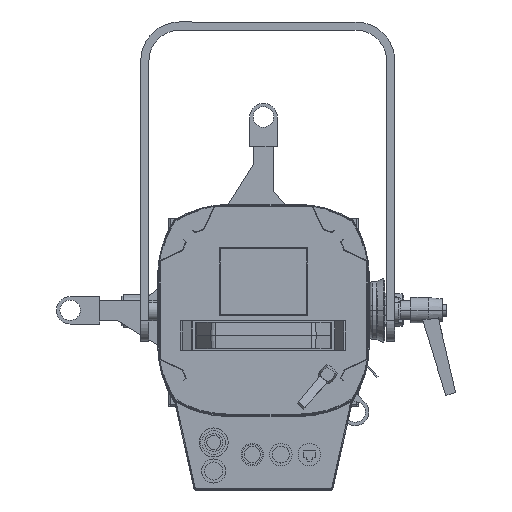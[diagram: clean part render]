
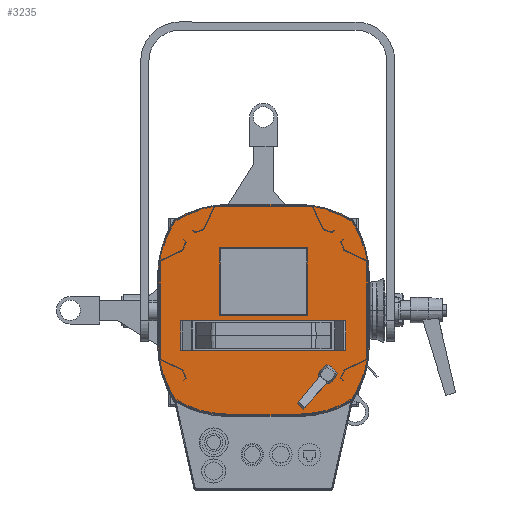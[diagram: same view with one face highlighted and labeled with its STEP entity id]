
A CAD part, top view. The second image highlights one B-rep face of the part: STEP entity #3235.
In plain terms, the highlighted planar face has unit normal (0, 0, 1).
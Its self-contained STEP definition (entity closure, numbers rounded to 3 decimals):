
#42 = CARTESIAN_POINT ( 'NONE',  ( -42.5, 60., 227.1 ) ) ;
#118 = ORIENTED_EDGE ( 'NONE', *, *, #8943, .F. ) ;
#231 = VERTEX_POINT ( 'NONE', #10096 ) ;
#337 = EDGE_CURVE ( 'NONE', #4456, #9332, #11197, .T. ) ;
#720 = VERTEX_POINT ( 'NONE', #11473 ) ;
#1090 = AXIS2_PLACEMENT_3D ( 'NONE', #14621, #28991, #16799 ) ;
#1207 = ORIENTED_EDGE ( 'NONE', *, *, #4908, .F. ) ;
#1422 = CARTESIAN_POINT ( 'NONE',  ( 33., 0., 227.1 ) ) ;
#1524 = VERTEX_POINT ( 'NONE', #27880 ) ;
#1911 = DIRECTION ( 'NONE',  ( 1., 0., 0. ) ) ;
#2131 = ORIENTED_EDGE ( 'NONE', *, *, #30221, .F. ) ;
#2450 = EDGE_CURVE ( 'NONE', #14532, #231, #20240, .T. ) ;
#2831 = VERTEX_POINT ( 'NONE', #13691 ) ;
#2868 = CIRCLE ( 'NONE', #8263, 103.8 ) ;
#3049 = CIRCLE ( 'NONE', #1090, 103.8 ) ;
#3235 = ADVANCED_FACE ( 'NONE', ( #20208, #8748 ), #10765, .F. ) ;
#3365 = VERTEX_POINT ( 'NONE', #9660 ) ;
#3878 = VECTOR ( 'NONE', #6921, 1000. ) ;
#4456 = VERTEX_POINT ( 'NONE', #29762 ) ;
#4908 = EDGE_CURVE ( 'NONE', #5964, #4456, #12089, .T. ) ;
#5127 = DIRECTION ( 'NONE',  ( 0., 0., -1. ) ) ;
#5440 = AXIS2_PLACEMENT_3D ( 'NONE', #25188, #21007, #25491 ) ;
#5577 = AXIS2_PLACEMENT_3D ( 'NONE', #21537, #15303, #8204 ) ;
#5879 = VECTOR ( 'NONE', #21060, 1000. ) ;
#5964 = VERTEX_POINT ( 'NONE', #11014 ) ;
#6199 = CARTESIAN_POINT ( 'NONE',  ( -103.8, -33., 227.1 ) ) ;
#6347 = CARTESIAN_POINT ( 'NONE',  ( 0., -33., 227.1 ) ) ;
#6813 = VERTEX_POINT ( 'NONE', #20680 ) ;
#6921 = DIRECTION ( 'NONE',  ( -1., 0., 0. ) ) ;
#6940 = DIRECTION ( 'NONE',  ( 0., -1., 0. ) ) ;
#7330 = CARTESIAN_POINT ( 'NONE',  ( -42.5, -4., 227.1 ) ) ;
#7442 = EDGE_LOOP ( 'NONE', ( #17923, #29066, #1207, #19954 ) ) ;
#7691 = CARTESIAN_POINT ( 'NONE',  ( -42.5, 14., 227.1 ) ) ;
#7816 = CARTESIAN_POINT ( 'NONE',  ( 0., -33., 227.1 ) ) ;
#8068 = CARTESIAN_POINT ( 'NONE',  ( 88.019, 88.019, 227.1 ) ) ;
#8204 = DIRECTION ( 'NONE',  ( 1., 0., 0. ) ) ;
#8263 = AXIS2_PLACEMENT_3D ( 'NONE', #1422, #20095, #22712 ) ;
#8465 = DIRECTION ( 'NONE',  ( -1., 0., 0. ) ) ;
#8599 = DIRECTION ( 'NONE',  ( 0., 0., -1. ) ) ;
#8635 = DIRECTION ( 'NONE',  ( 0., 1., 0. ) ) ;
#8748 = FACE_OUTER_BOUND ( 'NONE', #11134, .T. ) ;
#8943 = EDGE_CURVE ( 'NONE', #29263, #1524, #9470, .T. ) ;
#9195 = CARTESIAN_POINT ( 'NONE',  ( 33., -103.8, 227.1 ) ) ;
#9294 = CARTESIAN_POINT ( 'NONE',  ( 0., 33., 227.1 ) ) ;
#9332 = VERTEX_POINT ( 'NONE', #42 ) ;
#9361 = ORIENTED_EDGE ( 'NONE', *, *, #2450, .F. ) ;
#9470 = CIRCLE ( 'NONE', #5577, 103.8 ) ;
#9602 = VERTEX_POINT ( 'NONE', #10773 ) ;
#9641 = ORIENTED_EDGE ( 'NONE', *, *, #25084, .F. ) ;
#9660 = CARTESIAN_POINT ( 'NONE',  ( -33., -103.8, 227.1 ) ) ;
#9820 = VECTOR ( 'NONE', #23106, 1000. ) ;
#10074 = DIRECTION ( 'NONE',  ( 0., 0., -1. ) ) ;
#10096 = CARTESIAN_POINT ( 'NONE',  ( -88.019, 88.019, 227.1 ) ) ;
#10631 = ORIENTED_EDGE ( 'NONE', *, *, #16219, .F. ) ;
#10765 = PLANE ( 'NONE',  #16314 ) ;
#10773 = CARTESIAN_POINT ( 'NONE',  ( -42.5, -4., 227.1 ) ) ;
#11014 = CARTESIAN_POINT ( 'NONE',  ( 42.5, -4., 227.1 ) ) ;
#11134 = EDGE_LOOP ( 'NONE', ( #16592, #15267, #16578, #2131, #24368, #9641, #9361, #25249, #24961, #21065, #10631, #118 ) ) ;
#11197 = LINE ( 'NONE', #13230, #9820 ) ;
#11473 = CARTESIAN_POINT ( 'NONE',  ( 103.8, 33., 227.1 ) ) ;
#11601 = AXIS2_PLACEMENT_3D ( 'NONE', #12034, #5127, #12349 ) ;
#11642 = EDGE_CURVE ( 'NONE', #21431, #6813, #13165, .T. ) ;
#11810 = CARTESIAN_POINT ( 'NONE',  ( -33., 103.8, 227.1 ) ) ;
#12034 = CARTESIAN_POINT ( 'NONE',  ( -33., 0., 227.1 ) ) ;
#12089 = LINE ( 'NONE', #16428, #5879 ) ;
#12145 = VECTOR ( 'NONE', #21529, 1000. ) ;
#12349 = DIRECTION ( 'NONE',  ( -1., 0., 0. ) ) ;
#13081 = VERTEX_POINT ( 'NONE', #8068 ) ;
#13087 = VECTOR ( 'NONE', #1911, 1000. ) ;
#13165 = LINE ( 'NONE', #22457, #13087 ) ;
#13230 = CARTESIAN_POINT ( 'NONE',  ( 2.5, 60., 227.1 ) ) ;
#13611 = DIRECTION ( 'NONE',  ( 1., 0., 0. ) ) ;
#13691 = CARTESIAN_POINT ( 'NONE',  ( -103.8, -33., 227.1 ) ) ;
#14001 = AXIS2_PLACEMENT_3D ( 'NONE', #9294, #30165, #13611 ) ;
#14035 = VECTOR ( 'NONE', #6940, 1000. ) ;
#14477 = CARTESIAN_POINT ( 'NONE',  ( -88.019, -88.019, 227.1 ) ) ;
#14532 = VERTEX_POINT ( 'NONE', #20239 ) ;
#14621 = CARTESIAN_POINT ( 'NONE',  ( -33., 0., 227.1 ) ) ;
#15267 = ORIENTED_EDGE ( 'NONE', *, *, #26230, .F. ) ;
#15303 = DIRECTION ( 'NONE',  ( 0., 0., -1. ) ) ;
#15670 = EDGE_CURVE ( 'NONE', #27408, #2831, #23471, .T. ) ;
#15697 = CARTESIAN_POINT ( 'NONE',  ( 0., -33., 227.1 ) ) ;
#15734 = DIRECTION ( 'NONE',  ( 1., 0., 0. ) ) ;
#15798 = EDGE_CURVE ( 'NONE', #2831, #14532, #17206, .T. ) ;
#16055 = CIRCLE ( 'NONE', #11601, 103.8 ) ;
#16219 = EDGE_CURVE ( 'NONE', #1524, #3365, #30217, .T. ) ;
#16314 = AXIS2_PLACEMENT_3D ( 'NONE', #15697, #8599, #8465 ) ;
#16428 = CARTESIAN_POINT ( 'NONE',  ( 42.5, 60., 227.1 ) ) ;
#16578 = ORIENTED_EDGE ( 'NONE', *, *, #17933, .F. ) ;
#16592 = ORIENTED_EDGE ( 'NONE', *, *, #23974, .F. ) ;
#16799 = DIRECTION ( 'NONE',  ( 1., 0., 0. ) ) ;
#17113 = DIRECTION ( 'NONE',  ( 0., -1., 0. ) ) ;
#17206 = LINE ( 'NONE', #6199, #23979 ) ;
#17538 = CARTESIAN_POINT ( 'NONE',  ( 103.8, -33., 227.1 ) ) ;
#17923 = ORIENTED_EDGE ( 'NONE', *, *, #22404, .F. ) ;
#17933 = EDGE_CURVE ( 'NONE', #13081, #720, #21924, .T. ) ;
#18881 = VERTEX_POINT ( 'NONE', #17538 ) ;
#19715 = DIRECTION ( 'NONE',  ( -1., 0., 0. ) ) ;
#19954 = ORIENTED_EDGE ( 'NONE', *, *, #29592, .F. ) ;
#20095 = DIRECTION ( 'NONE',  ( 0., 0., -1. ) ) ;
#20208 = FACE_BOUND ( 'NONE', #7442, .T. ) ;
#20239 = CARTESIAN_POINT ( 'NONE',  ( -103.8, 33., 227.1 ) ) ;
#20240 = CIRCLE ( 'NONE', #5440, 103.8 ) ;
#20680 = CARTESIAN_POINT ( 'NONE',  ( 33., 103.8, 227.1 ) ) ;
#21007 = DIRECTION ( 'NONE',  ( 0., 0., -1. ) ) ;
#21060 = DIRECTION ( 'NONE',  ( 0., 1., 0. ) ) ;
#21063 = LINE ( 'NONE', #7330, #12145 ) ;
#21065 = ORIENTED_EDGE ( 'NONE', *, *, #28664, .F. ) ;
#21422 = LINE ( 'NONE', #25606, #14035 ) ;
#21431 = VERTEX_POINT ( 'NONE', #11810 ) ;
#21529 = DIRECTION ( 'NONE',  ( 1., 0., 0. ) ) ;
#21537 = CARTESIAN_POINT ( 'NONE',  ( 33., 0., 227.1 ) ) ;
#21778 = CIRCLE ( 'NONE', #24245, 103.8 ) ;
#21924 = CIRCLE ( 'NONE', #14001, 103.8 ) ;
#22404 = EDGE_CURVE ( 'NONE', #9332, #9602, #28859, .T. ) ;
#22457 = CARTESIAN_POINT ( 'NONE',  ( 33., 103.8, 227.1 ) ) ;
#22712 = DIRECTION ( 'NONE',  ( -1., 0., 0. ) ) ;
#23106 = DIRECTION ( 'NONE',  ( -1., 0., 0. ) ) ;
#23471 = CIRCLE ( 'NONE', #25464, 103.8 ) ;
#23974 = EDGE_CURVE ( 'NONE', #18881, #29263, #21778, .T. ) ;
#23979 = VECTOR ( 'NONE', #8635, 1000. ) ;
#24245 = AXIS2_PLACEMENT_3D ( 'NONE', #7816, #26512, #19715 ) ;
#24368 = ORIENTED_EDGE ( 'NONE', *, *, #11642, .F. ) ;
#24961 = ORIENTED_EDGE ( 'NONE', *, *, #15670, .F. ) ;
#25084 = EDGE_CURVE ( 'NONE', #231, #21431, #3049, .T. ) ;
#25188 = CARTESIAN_POINT ( 'NONE',  ( 0., 33., 227.1 ) ) ;
#25249 = ORIENTED_EDGE ( 'NONE', *, *, #15798, .F. ) ;
#25464 = AXIS2_PLACEMENT_3D ( 'NONE', #6347, #10074, #15734 ) ;
#25491 = DIRECTION ( 'NONE',  ( -1., 0., 0. ) ) ;
#25606 = CARTESIAN_POINT ( 'NONE',  ( 103.8, -33., 227.1 ) ) ;
#26230 = EDGE_CURVE ( 'NONE', #720, #18881, #21422, .T. ) ;
#26512 = DIRECTION ( 'NONE',  ( 0., 0., -1. ) ) ;
#27408 = VERTEX_POINT ( 'NONE', #14477 ) ;
#27597 = VECTOR ( 'NONE', #17113, 1000. ) ;
#27880 = CARTESIAN_POINT ( 'NONE',  ( 33., -103.8, 227.1 ) ) ;
#28372 = CARTESIAN_POINT ( 'NONE',  ( 88.019, -88.019, 227.1 ) ) ;
#28664 = EDGE_CURVE ( 'NONE', #3365, #27408, #16055, .T. ) ;
#28859 = LINE ( 'NONE', #7691, #27597 ) ;
#28991 = DIRECTION ( 'NONE',  ( 0., 0., -1. ) ) ;
#29066 = ORIENTED_EDGE ( 'NONE', *, *, #337, .F. ) ;
#29263 = VERTEX_POINT ( 'NONE', #28372 ) ;
#29592 = EDGE_CURVE ( 'NONE', #9602, #5964, #21063, .T. ) ;
#29762 = CARTESIAN_POINT ( 'NONE',  ( 42.5, 60., 227.1 ) ) ;
#30165 = DIRECTION ( 'NONE',  ( 0., 0., -1. ) ) ;
#30217 = LINE ( 'NONE', #9195, #3878 ) ;
#30221 = EDGE_CURVE ( 'NONE', #6813, #13081, #2868, .T. ) ;
